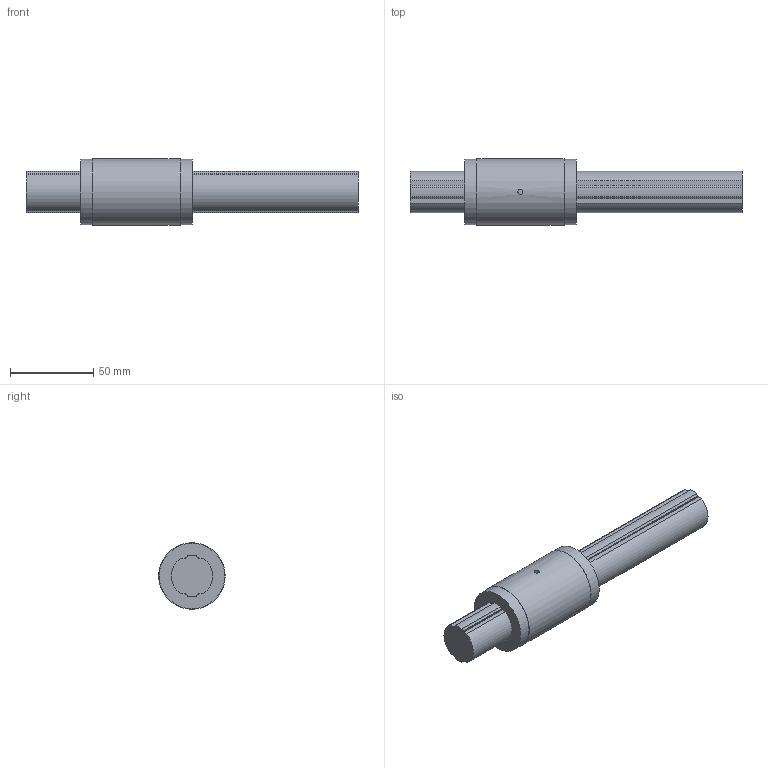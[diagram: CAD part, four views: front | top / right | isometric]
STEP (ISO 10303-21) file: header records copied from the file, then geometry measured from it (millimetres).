
FILE_DESCRIPTION(/* description */ ('STEP AP214'),/* implementation_level */ '2;1');
FILE_NAME(/* name */ 'LT25X+200L(00)',/* time_stamp */ '2024-09-05T14:16:41+02:00',/* author */ ('License CC BY-ND 4.0'),/* organization */ ('CADENAS'),/* preprocessor_version */ 'ST-DEVELOPER v19.3',/* originating_system */ 'PARTsolutions',/* authorisation */ ' ');
FILE_SCHEMA (('AUTOMOTIVE_DESIGN {1 0 10303 214 3 1 1}'));
Length unit declared in the file: millimetre
Products named in the file (3): LT25X+200L(00); 1LT25X 200Shaft; 1LT25X Cylindar
Assembly tree (2 placements, depth 2):
  LT25X+200L(00)
    1LT25X 200Shaft
    1LT25X Cylindar
Bounding box: 200 x 40 x 40 mm (x, y, z)
Volume: 146982.5 mm3; surface area: 32791.2 mm2
Topology: 2 solids, 2 shells, 64 faces, 173 edges, 115 vertices
Faces by surface type: cylinder 39, plane 25
Full cylindrical faces by diameter (mm): 3 x2, 39.6 x2, 40 x1
Entity records: 2129 total; most frequent: CARTESIAN_POINT 399, DIRECTION 366, ORIENTED_EDGE 332, EDGE_CURVE 166, AXIS2_PLACEMENT_3D 139, VERTEX_POINT 114, LINE 88, VECTOR 88
